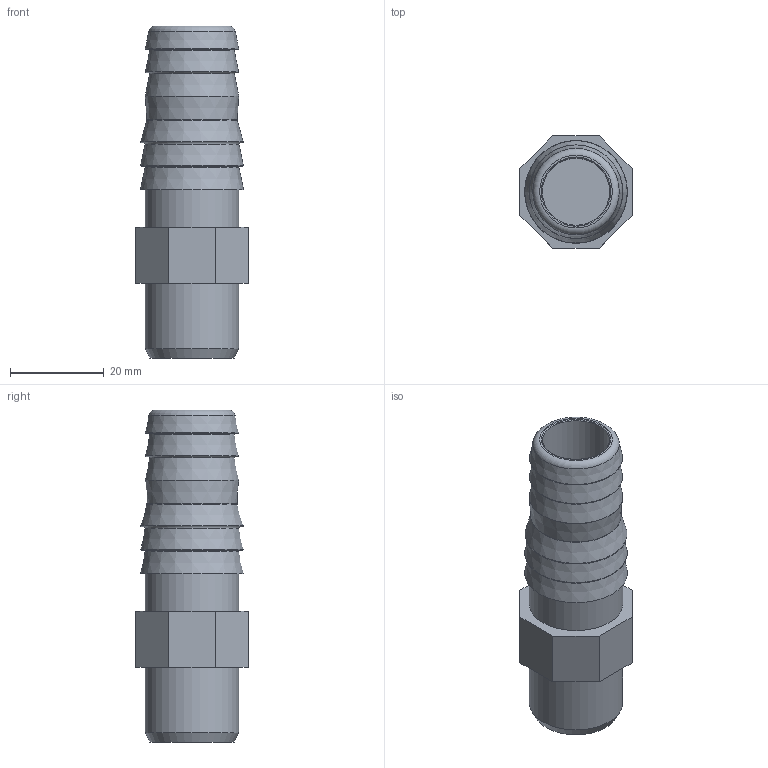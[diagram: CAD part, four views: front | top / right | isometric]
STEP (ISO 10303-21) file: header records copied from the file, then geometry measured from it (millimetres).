
FILE_DESCRIPTION(/* description */ (''),/* implementation_level */ '2;1');
FILE_NAME(/* name */ 'C:\Users\POLYPIPE\Desktop\DATASET INVENTOR\LIBRERIA EFFAST\RACCORDI 3DxWEB\RDR\3D_RDRPGD\3D_RDRPGD0200.stp',/* time_stamp */ '2018-01-19T14:58:23+01:00',/* author */ ('POLYPIPE'),/* organization */ ('Polypipe Italia'),/* preprocessor_version */ 'ST-DEVELOPER v16.1',/* originating_system */ 'Autodesk Inventor 2016',/* authorisation */ '');
FILE_SCHEMA (('CONFIG_CONTROL_DESIGN'));
Length unit declared in the file: millimetre
Products named in the file (1): 3D_RDRPGD0200
Bounding box: 24 x 24 x 71 mm (x, y, z)
Volume: 14488.7 mm3; surface area: 8422.3 mm2
Topology: 1 solids, 1 shells, 44 faces, 87 edges, 54 vertices
Faces by surface type: plane 19, torus 13, cone 8, cylinder 4
Full cylindrical faces by diameter (mm): 14.4 x2, 20 x2
Entity records: 992 total; most frequent: DIRECTION 182, CARTESIAN_POINT 153, ORIENTED_EDGE 116, AXIS2_PLACEMENT_3D 79, EDGE_LOOP 78, EDGE_CURVE 58, VERTEX_POINT 50, FACE_OUTER_BOUND 44
